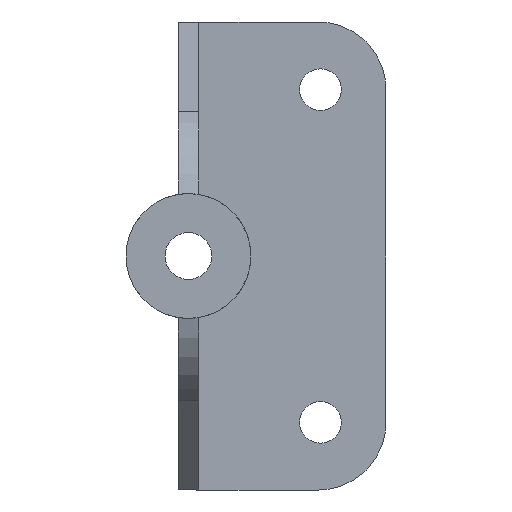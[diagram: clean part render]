
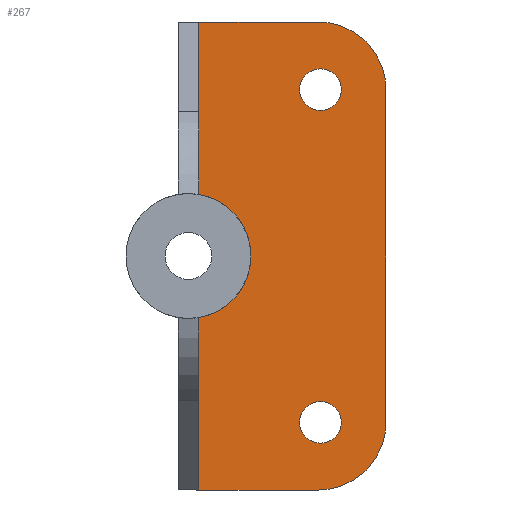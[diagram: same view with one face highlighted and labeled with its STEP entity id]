
A CAD part, front view. The second image highlights one B-rep face of the part: STEP entity #267.
In plain terms, the highlighted planar face has unit normal (0, -1, 0).
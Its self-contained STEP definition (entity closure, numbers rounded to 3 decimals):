
#197 = EDGE_CURVE( '', #373, #253, #540, .T. );
#203 = EDGE_CURVE( '', #383, #247, #546, .T. );
#209 = EDGE_CURVE( '', #253, #461, #553, .T. );
#247 = VERTEX_POINT( '', #594 );
#249 = VERTEX_POINT( '', #596 );
#253 = VERTEX_POINT( '', #600 );
#267 = ADVANCED_FACE( '', ( #617, #618, #619 ), #620, .F. );
#269 = EDGE_CURVE( '', #247, #383, #622, .T. );
#345 = EDGE_CURVE( '', #249, #393, #708, .T. );
#347 = VERTEX_POINT( '', #710 );
#361 = EDGE_CURVE( '', #481, #393, #725, .T. );
#373 = VERTEX_POINT( '', #739 );
#383 = VERTEX_POINT( '', #751 );
#393 = VERTEX_POINT( '', #762 );
#417 = VERTEX_POINT( '', #789 );
#425 = EDGE_CURVE( '', #347, #487, #797, .T. );
#435 = EDGE_CURVE( '', #455, #417, #807, .T. );
#437 = EDGE_CURVE( '', #485, #249, #809, .T. );
#451 = EDGE_CURVE( '', #487, #485, #824, .T. );
#455 = VERTEX_POINT( '', #829 );
#461 = VERTEX_POINT( '', #835 );
#481 = VERTEX_POINT( '', #856 );
#485 = VERTEX_POINT( '', #860 );
#487 = VERTEX_POINT( '', #862 );
#493 = EDGE_CURVE( '', #461, #481, #869, .T. );
#503 = EDGE_CURVE( '', #373, #347, #879, .T. );
#507 = EDGE_CURVE( '', #417, #455, #883, .T. );
#540 = LINE( '', #912, #913 );
#546 = CIRCLE( '', #919, 2. );
#553 = CIRCLE( '', #937, 5. );
#594 = CARTESIAN_POINT( '', ( -2., 0., 32. ) );
#596 = CARTESIAN_POINT( '', ( -0.2, 0., -6.5 ) );
#600 = CARTESIAN_POINT( '', ( -11.7, 0., 20.899 ) );
#617 = FACE_OUTER_BOUND( '', #1031, .T. );
#618 = FACE_BOUND( '', #1032, .T. );
#619 = FACE_BOUND( '', #1033, .T. );
#620 = PLANE( '', #1034 );
#622 = CIRCLE( '', #1037, 2. );
#708 = LINE( '', #1183, #1184 );
#710 = CARTESIAN_POINT( '', ( -0.2, 0., 38.5 ) );
#725 = LINE( '', #1208, #1209 );
#739 = CARTESIAN_POINT( '', ( -11.7, 0., 38.5 ) );
#751 = CARTESIAN_POINT( '', ( 2., 0., 32. ) );
#762 = CARTESIAN_POINT( '', ( -11.7, 0., -6.5 ) );
#789 = CARTESIAN_POINT( '', ( -2., 0., 0. ) );
#797 = CIRCLE( '', #1317, 6.5 );
#807 = CIRCLE( '', #1334, 2. );
#809 = CIRCLE( '', #1337, 6.5 );
#824 = LINE( '', #1361, #1362 );
#829 = CARTESIAN_POINT( '', ( 2., 0., 0. ) );
#835 = CARTESIAN_POINT( '', ( -7.7, 0., 16. ) );
#856 = CARTESIAN_POINT( '', ( -11.7, 0., 11.101 ) );
#860 = CARTESIAN_POINT( '', ( 6.3, 0., 0. ) );
#862 = CARTESIAN_POINT( '', ( 6.3, 0., 32. ) );
#869 = CIRCLE( '', #1416, 5. );
#879 = LINE( '', #1448, #1449 );
#883 = CIRCLE( '', #1455, 2. );
#912 = CARTESIAN_POINT( '', ( -11.7, 0., 0. ) );
#913 = VECTOR( '', #1482, 1. );
#919 = AXIS2_PLACEMENT_3D( '', #1484, #1485, #1486 );
#937 = AXIS2_PLACEMENT_3D( '', #1496, #1497, #1498 );
#1031 = EDGE_LOOP( '', ( #1559, #1560, #1561, #1562, #1563, #1564, #1565, #1566, #1567 ) );
#1032 = EDGE_LOOP( '', ( #1568, #1569 ) );
#1033 = EDGE_LOOP( '', ( #1570, #1571 ) );
#1034 = AXIS2_PLACEMENT_3D( '', #1572, #1573, #1574 );
#1037 = AXIS2_PLACEMENT_3D( '', #1575, #1576, #1577 );
#1183 = CARTESIAN_POINT( '', ( -0.2, 0., -6.5 ) );
#1184 = VECTOR( '', #1685, 1. );
#1208 = CARTESIAN_POINT( '', ( -11.7, 0., 0. ) );
#1209 = VECTOR( '', #1697, 1. );
#1317 = AXIS2_PLACEMENT_3D( '', #1792, #1793, #1794 );
#1334 = AXIS2_PLACEMENT_3D( '', #1803, #1804, #1805 );
#1337 = AXIS2_PLACEMENT_3D( '', #1806, #1807, #1808 );
#1361 = CARTESIAN_POINT( '', ( 6.3, 0., 32. ) );
#1362 = VECTOR( '', #1828, 1. );
#1416 = AXIS2_PLACEMENT_3D( '', #1863, #1864, #1865 );
#1448 = CARTESIAN_POINT( '', ( -13.7, 0., 38.5 ) );
#1449 = VECTOR( '', #1870, 1. );
#1455 = AXIS2_PLACEMENT_3D( '', #1874, #1875, #1876 );
#1482 = DIRECTION( '', ( 0., 0., -1. ) );
#1484 = CARTESIAN_POINT( '', ( 0., 0., 32. ) );
#1485 = DIRECTION( '', ( 0., 1., 0. ) );
#1486 = DIRECTION( '', ( 1., 0., 0. ) );
#1496 = CARTESIAN_POINT( '', ( -12.7, 0., 16. ) );
#1497 = DIRECTION( '', ( 0., 1., 0. ) );
#1498 = DIRECTION( '', ( 1., 0., 0. ) );
#1559 = ORIENTED_EDGE( '', *, *, #209, .T. );
#1560 = ORIENTED_EDGE( '', *, *, #493, .T. );
#1561 = ORIENTED_EDGE( '', *, *, #361, .T. );
#1562 = ORIENTED_EDGE( '', *, *, #345, .F. );
#1563 = ORIENTED_EDGE( '', *, *, #437, .F. );
#1564 = ORIENTED_EDGE( '', *, *, #451, .F. );
#1565 = ORIENTED_EDGE( '', *, *, #425, .F. );
#1566 = ORIENTED_EDGE( '', *, *, #503, .F. );
#1567 = ORIENTED_EDGE( '', *, *, #197, .T. );
#1568 = ORIENTED_EDGE( '', *, *, #203, .T. );
#1569 = ORIENTED_EDGE( '', *, *, #269, .T. );
#1570 = ORIENTED_EDGE( '', *, *, #435, .T. );
#1571 = ORIENTED_EDGE( '', *, *, #507, .T. );
#1572 = CARTESIAN_POINT( '', ( 0., 0., 0. ) );
#1573 = DIRECTION( '', ( 0., 1., 0. ) );
#1574 = DIRECTION( '', ( 0., 0., 1. ) );
#1575 = CARTESIAN_POINT( '', ( 0., 0., 32. ) );
#1576 = DIRECTION( '', ( 0., 1., 0. ) );
#1577 = DIRECTION( '', ( 1., 0., 0. ) );
#1685 = DIRECTION( '', ( -1., 0., 0. ) );
#1697 = DIRECTION( '', ( 0., 0., -1. ) );
#1792 = CARTESIAN_POINT( '', ( -0.2, 0., 32. ) );
#1793 = DIRECTION( '', ( 0., 1., 0. ) );
#1794 = DIRECTION( '', ( 0., 0., 1. ) );
#1803 = CARTESIAN_POINT( '', ( 0., 0., 0. ) );
#1804 = DIRECTION( '', ( 0., 1., 0. ) );
#1805 = DIRECTION( '', ( 1., 0., 0. ) );
#1806 = CARTESIAN_POINT( '', ( -0.2, 0., 0. ) );
#1807 = DIRECTION( '', ( 0., 1., 0. ) );
#1808 = DIRECTION( '', ( 1., 0., 0. ) );
#1828 = DIRECTION( '', ( 0., 0., -1. ) );
#1863 = CARTESIAN_POINT( '', ( -12.7, 0., 16. ) );
#1864 = DIRECTION( '', ( 0., 1., 0. ) );
#1865 = DIRECTION( '', ( 1., 0., 0. ) );
#1870 = DIRECTION( '', ( 1., 0., 0. ) );
#1874 = CARTESIAN_POINT( '', ( 0., 0., 0. ) );
#1875 = DIRECTION( '', ( 0., 1., 0. ) );
#1876 = DIRECTION( '', ( 1., 0., 0. ) );
